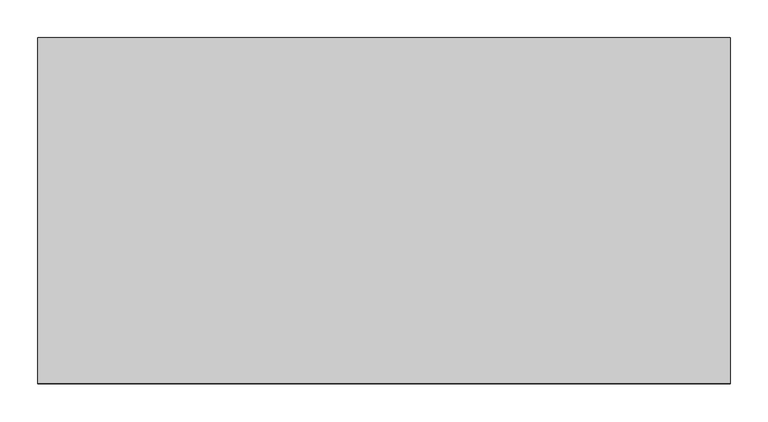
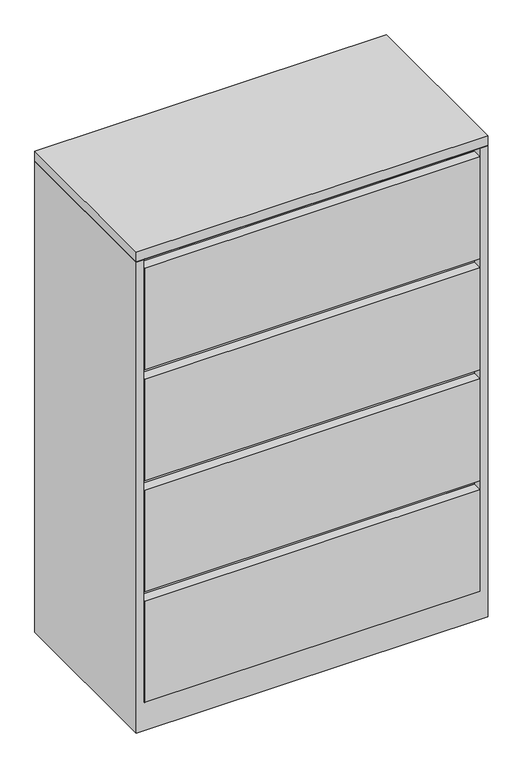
"""IFC4 building model written with IfcOpenShell, lengths in millimetres: furniture geometry, Steelcase - 900 Series - Storage - Lateral File With Drawer - 40H-52H - Flush Steel : 52H x 36W."""

from ifc_helpers import new_model, si_unit, frame, origin, place, context, project, spatial, polyline, outline, extrude, faceted_brep, source, transform, mapped, element, save


def furniture_501385d3(model_context):
    return source(origin(), model_context, "Body", "SolidModel", [
        extrude(outline(polyline([(914.4, 0.0), (914.4, -457.2), (0.0, -457.2), (0.0, 0.0), (914.4, 0.0)])), frame((0.0, 0.0, 1295.3999516), z_axis=(0.0, 0.0, 1.0), x_axis=(1.0, 0.0, 0.0)), (0.0, 0.0, 1.0), 25.4),
        faceted_brep([(895.0960184, -25.2721219, 1293.876), (895.0960184, -457.2, 1293.876), (914.4, -457.2, 1293.876), (914.4, 0.0, 1293.876), (0.0, 0.0, 1293.876), (0.0, -457.2, 1293.876), (19.3039998, -457.2, 1293.876), (19.3039998, -25.2721219, 1293.876), (0.0, -457.2, 0.0), (0.0, 0.0, 0.0), (914.4, 0.0, 0.0), (914.4, -457.2, 0.0), (895.0960184, -25.2721219, 381.0), (895.0960184, -431.800255, 381.0), (895.0960184, -431.800255, 355.6), (895.0960184, -25.2721219, 355.6), (895.0960184, -25.2721219, 76.2), (895.0960184, -457.2, 76.2), (19.3039998, -457.2, 76.2), (19.3039998, -25.2721219, 76.2), (19.3039998, -25.2721219, 355.6), (19.3039998, -431.800255, 355.6), (19.3039998, -431.800255, 381.0), (19.3039998, -25.2721219, 381.0)], [[[0, 1, 2, 3, 4, 5, 6, 7]], [[8, 9, 10, 11]], [[1, 0, 12, 13, 14, 15, 16, 17]], [[2, 1, 17, 18, 6, 5, 8, 11]], [[3, 2, 11, 10]], [[4, 3, 10, 9]], [[5, 4, 9, 8]], [[7, 6, 18, 19, 20, 21, 22, 23]], [[0, 7, 23, 12]], [[16, 15, 20, 19]], [[18, 17, 16, 19]], [[22, 13, 12, 23]], [[13, 22, 21, 14]], [[14, 21, 20, 15]]]),
        extrude(outline(polyline([(893.5722015, -457.2), (20.8289612, -457.2), (20.8289612, -431.800255), (893.5722015, -431.800255), (893.5722015, -457.2)])), frame((0.0, 0.0, 1293.876), z_axis=(0.0, 0.0, 1.0), x_axis=(1.0, 0.0, 0.0)), (0.0, 0.0, 1.0), 1.524),
        extrude(outline(polyline([(895.0960184, -25.2721219), (895.0960184, -431.800255), (19.3039998, -431.800255), (19.3039998, -25.2721219), (895.0960184, -25.2721219)])), frame((0.0, 0.0, 660.4), z_axis=(0.0, 0.0, 1.0), x_axis=(1.0, 0.0, 0.0)), (0.0, 0.0, 1.0), 25.4),
        extrude(outline(polyline([(893.5722015, -457.2), (20.8289612, -457.2), (20.8289612, -431.800255), (893.5722015, -431.800255), (893.5722015, -457.2)])), frame((0.0, 0.0, 990.6), z_axis=(0.0, 0.0, 1.0), x_axis=(1.0, 0.0, 0.0)), (0.0, 0.0, 1.0), 279.4),
        extrude(outline(polyline([(893.5722015, -457.2), (20.8289612, -457.2), (20.8289612, -431.800255), (893.5722015, -431.800255), (893.5722015, -457.2)])), frame((0.0, 0.0, 685.8), z_axis=(0.0, 0.0, 1.0), x_axis=(1.0, 0.0, 0.0)), (0.0, 0.0, 1.0), 279.4),
        extrude(outline(polyline([(895.0960184, -25.2721219), (895.0960184, -431.800255), (19.3039998, -431.800255), (19.3039998, -25.2721219), (895.0960184, -25.2721219)])), frame((0.0, 0.0, 965.2), z_axis=(0.0, 0.0, 1.0), x_axis=(1.0, 0.0, 0.0)), (0.0, 0.0, 1.0), 25.4),
        extrude(outline(polyline([(895.0960184, -25.2721219), (895.0960184, -431.800255), (20.8289612, -431.800255), (20.8289612, -25.2721219), (895.0960184, -25.2721219)])), frame((0.0, 0.0, 1293.876), z_axis=(0.0, 0.0, 1.0), x_axis=(1.0, 0.0, 0.0)), (0.0, 0.0, 1.0), 1.5239516),
        extrude(outline(polyline([(893.5722015, -457.2), (20.8289612, -457.2), (20.8289612, -431.800255), (893.5722015, -431.800255), (893.5722015, -457.2)])), frame((0.0, 0.0, 76.2), z_axis=(0.0, 0.0, 1.0), x_axis=(1.0, 0.0, 0.0)), (0.0, 0.0, 1.0), 279.4),
        extrude(outline(polyline([(893.5722015, -457.2), (20.8289612, -457.2), (20.8289612, -431.800255), (893.5722015, -431.800255), (893.5722015, -457.2)])), frame((0.0, 0.0, 381.0), z_axis=(0.0, 0.0, 1.0), x_axis=(1.0, 0.0, 0.0)), (0.0, 0.0, 1.0), 279.4),
    ])


if __name__ == "__main__":
    model = new_model("IFC4")
    model_context = context("Model", 3, world=origin())
    ifc_project = project(units=[si_unit("LENGTHUNIT", "METRE", prefix="MILLI")], contexts=[model_context])
    site = spatial("IfcSite", under=ifc_project)
    building = spatial("IfcBuilding", under=site)
    placement = place(None, origin())
    furniture_shape = furniture_501385d3(model_context)
    element("IfcFurniture", 1, ObjectType="Steelcase - 900 Series - Storage - Lateral File With Drawer - 40H-52H - Flush Steel : 52H x 36W", at=placement, inside=building, context=model_context, shape_type="MappedRepresentation", body=[
        mapped(furniture_shape, transform((0.0, 0.0, 0.0), x_axis=(1.0, 0.0, 0.0), y_axis=(0.0, 1.0, 0.0), z_axis=(0.0, 0.0, 1.0))),
    ])
    save(model, "model.ifc")
